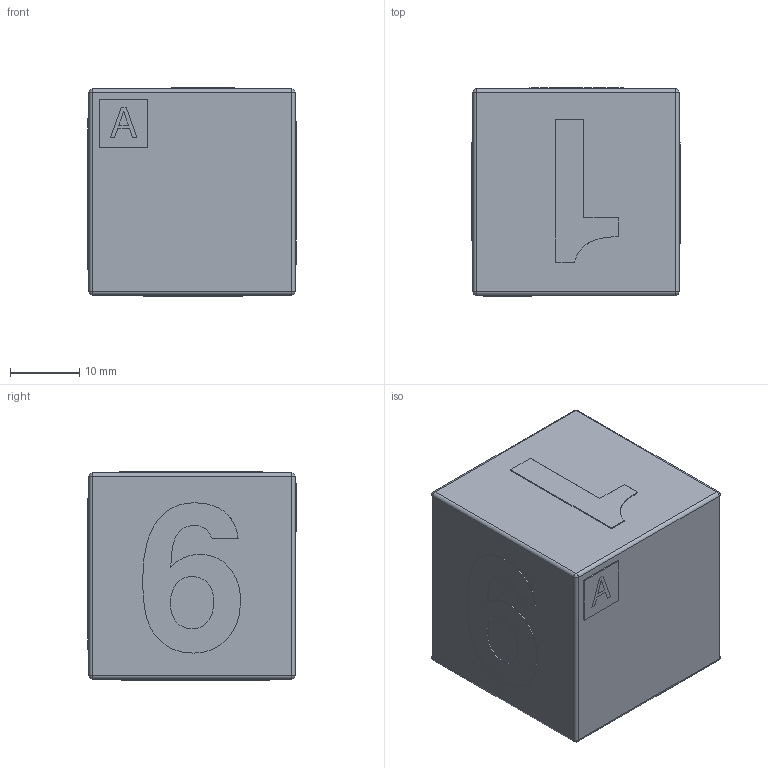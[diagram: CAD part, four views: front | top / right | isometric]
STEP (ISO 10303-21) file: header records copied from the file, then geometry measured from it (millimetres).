
FILE_DESCRIPTION(('Open CASCADE Model'),'2;1');
FILE_NAME('Open CASCADE Shape Model','2025-09-14T20:47:11',('Author'),( 'Open CASCADE'),'Open CASCADE STEP processor 7.8','Open CASCADE 7.8' ,'Unknown');
FILE_SCHEMA(('AUTOMOTIVE_DESIGN { 1 0 10303 214 1 1 1 1 }'));
Length unit declared in the file: millimetre
Products named in the file (18): 9b3c01fa-91a3-11f0-88d2-1c1b0deae66b; 9b3c03c6-91a3-11f0-88d2-1c1b0deae66b; 9b3c03c6-91a3-11f0-88d2-1c1b0deae66b_part; 9b3e4d52-91a3-11f0-88d2-1c1b0deae66b; 9b3e4d52-91a3-11f0-88d2-1c1b0deae66b_part; 9b403144-91a3-11f0-88d2-1c1b0deae66b; 9b403144-91a3-11f0-88d2-1c1b0deae66b_part; 9b41ff74-91a3-11f0-88d2-1c1b0deae66b; 9b41ff74-91a3-11f0-88d2-1c1b0deae66b_part; 9b432340-91a3-11f0-88d2-1c1b0deae66b; 9b432340-91a3-11f0-88d2-1c1b0deae66b_part; 9b449fb8-91a3-11f0-88d2-1c1b0deae66b; 9b449fb8-91a3-11f0-88d2-1c1b0deae66b_part; 9b48b27e-91a3-11f0-88d2-1c1b0deae66b; 9b48b27e-91a3-11f0-88d2-1c1b0deae66b_part; 9b48b3be-91a3-11f0-88d2-1c1b0deae66b; 9b48b3be-91a3-11f0-88d2-1c1b0deae66b_part
Assembly tree (17 placements, depth 4):
  9b3c01fa-91a3-11f0-88d2-1c1b0deae66b
    9b3c01fa-91a3-11f0-88d2-1c1b0deae66b
      9b3c03c6-91a3-11f0-88d2-1c1b0deae66b
        9b3c03c6-91a3-11f0-88d2-1c1b0deae66b_part
      9b3e4d52-91a3-11f0-88d2-1c1b0deae66b
        9b3e4d52-91a3-11f0-88d2-1c1b0deae66b_part
      9b403144-91a3-11f0-88d2-1c1b0deae66b
        9b403144-91a3-11f0-88d2-1c1b0deae66b_part
      9b41ff74-91a3-11f0-88d2-1c1b0deae66b
        9b41ff74-91a3-11f0-88d2-1c1b0deae66b_part
      9b432340-91a3-11f0-88d2-1c1b0deae66b
        9b432340-91a3-11f0-88d2-1c1b0deae66b_part
      9b449fb8-91a3-11f0-88d2-1c1b0deae66b
        9b449fb8-91a3-11f0-88d2-1c1b0deae66b_part
      9b48b27e-91a3-11f0-88d2-1c1b0deae66b
        9b48b27e-91a3-11f0-88d2-1c1b0deae66b_part
      9b48b3be-91a3-11f0-88d2-1c1b0deae66b
        9b48b3be-91a3-11f0-88d2-1c1b0deae66b_part
Bounding box: 30 x 30 x 30 mm (x, y, z)
Volume: 26303.6 mm3; surface area: 6953.7 mm2
Topology: 9 solids, 9 shells, 180 faces, 470 edges, 300 vertices
Faces by surface type: plane 86, extrusion 74, cylinder 12, sphere 8
Entity records: 11854 total; most frequent: CARTESIAN_POINT 2656, DIRECTION 1404, VECTOR 1108, LINE 1034, ORIENTED_EDGE 924, PCURVE 924, DEFINITIONAL_REPRESENTATION 924, EDGE_CURVE 462
